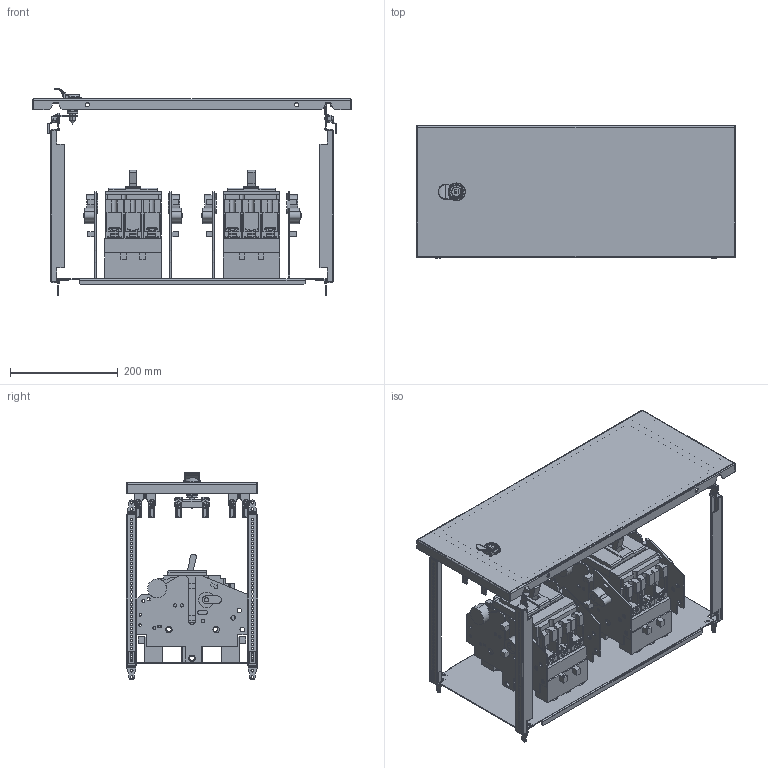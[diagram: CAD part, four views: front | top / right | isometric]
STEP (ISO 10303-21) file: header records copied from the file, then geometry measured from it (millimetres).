
FILE_DESCRIPTION(('CAx-IF Rec.Pracs.---Model Styling and Organization---1.2---2011-12-15','CAx-IF Rec.Pracs.---Geometric and Assembly Validation Properties---4.1---2014-06-16','CAx-IF Rec.Pracs.---PMI Polyline Presentation---2.0---2013-05-24'),'2;1');
FILE_NAME('R5PKEB7V61913 (W).stp','2021-07-29T02:33:40+03:00',(''),(''),'STEP Interface 4.4 by CT CoreTechnologie','3D_Evolution4.4 by CT CoreTechnologie','');
FILE_SCHEMA(('AUTOMOTIVE_DESIGN { 1 0 10303 214 1 1 1 1 }'));
Length unit declared in the file: millimetre
Products named in the file (1): R5PKEB7V61913 (W)
Bounding box: 594 x 245 x 386.9 mm (x, y, z)
Surface area: 1617177.3 mm2 (no closed solid volume)
Topology: 0 solids, 109 shells, 4244 faces, 11891 edges, 7869 vertices
Faces by surface type: plane 2515, cylinder 1331, bspline 398
Entity records: 147062 total; most frequent: CARTESIAN_POINT 35737, ORIENTED_EDGE 23680, DIRECTION 22333, EDGE_CURVE 11848, VECTOR 8507, LINE 8507, VERTEX_POINT 7905, AXIS2_PLACEMENT_3D 6913
